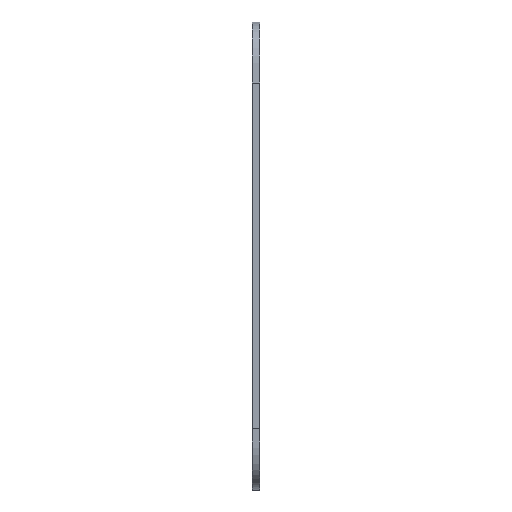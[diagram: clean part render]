
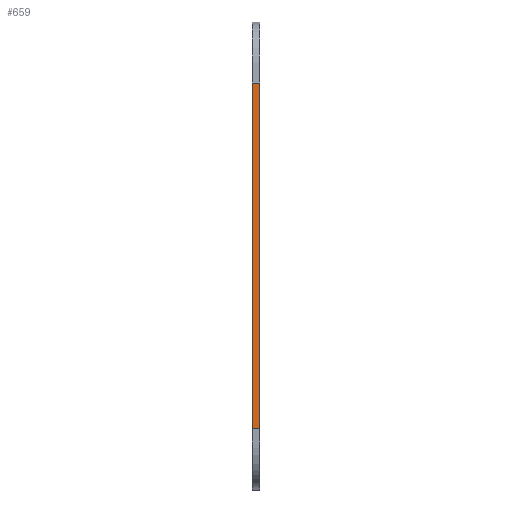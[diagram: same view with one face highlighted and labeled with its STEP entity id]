
A CAD part, top view. The second image highlights one B-rep face of the part: STEP entity #659.
In plain terms, the highlighted planar face has unit normal (0, 0, 1).
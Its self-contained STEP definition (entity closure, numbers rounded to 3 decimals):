
#93=FACE_OUTER_BOUND('',#127,.T.);
#127=EDGE_LOOP('',(#493,#494,#495,#496));
#189=LINE('',#1023,#249);
#190=LINE('',#1025,#250);
#191=LINE('',#1027,#251);
#192=LINE('',#1028,#252);
#249=VECTOR('',#839,10.);
#250=VECTOR('',#840,10.);
#251=VECTOR('',#841,10.);
#252=VECTOR('',#842,10.);
#309=VERTEX_POINT('',#1021);
#310=VERTEX_POINT('',#1022);
#311=VERTEX_POINT('',#1024);
#312=VERTEX_POINT('',#1026);
#385=EDGE_CURVE('',#309,#310,#189,.T.);
#386=EDGE_CURVE('',#310,#311,#190,.T.);
#387=EDGE_CURVE('',#312,#311,#191,.T.);
#388=EDGE_CURVE('',#309,#312,#192,.T.);
#493=ORIENTED_EDGE('',*,*,#385,.T.);
#494=ORIENTED_EDGE('',*,*,#386,.T.);
#495=ORIENTED_EDGE('',*,*,#387,.F.);
#496=ORIENTED_EDGE('',*,*,#388,.F.);
#637=PLANE('',#719);
#659=ADVANCED_FACE('',(#93),#637,.F.);
#719=AXIS2_PLACEMENT_3D('',#1020,#837,#838);
#837=DIRECTION('center_axis',(0.,0.,
-1.));
#838=DIRECTION('ref_axis',(0.,-1.,0.));
#839=DIRECTION('',(0.,1.,0.));
#840=DIRECTION('',(-1.,0.,0.));
#841=DIRECTION('',(0.,1.,0.));
#842=DIRECTION('',(-1.,0.,0.));
#1020=CARTESIAN_POINT('Origin',(-180.,0.,
39.5));
#1021=CARTESIAN_POINT('',(-180.,-65.,39.5));
#1022=CARTESIAN_POINT('',(-180.,65.,39.5));
#1023=CARTESIAN_POINT('',(-180.,-65.,39.5));
#1024=CARTESIAN_POINT('',(-183.,65.,39.5));
#1025=CARTESIAN_POINT('',(-180.,65.,39.5));
#1026=CARTESIAN_POINT('',(-183.,-65.,39.5));
#1027=CARTESIAN_POINT('',(-183.,-65.,39.5));
#1028=CARTESIAN_POINT('',(-180.,-65.,39.5));
